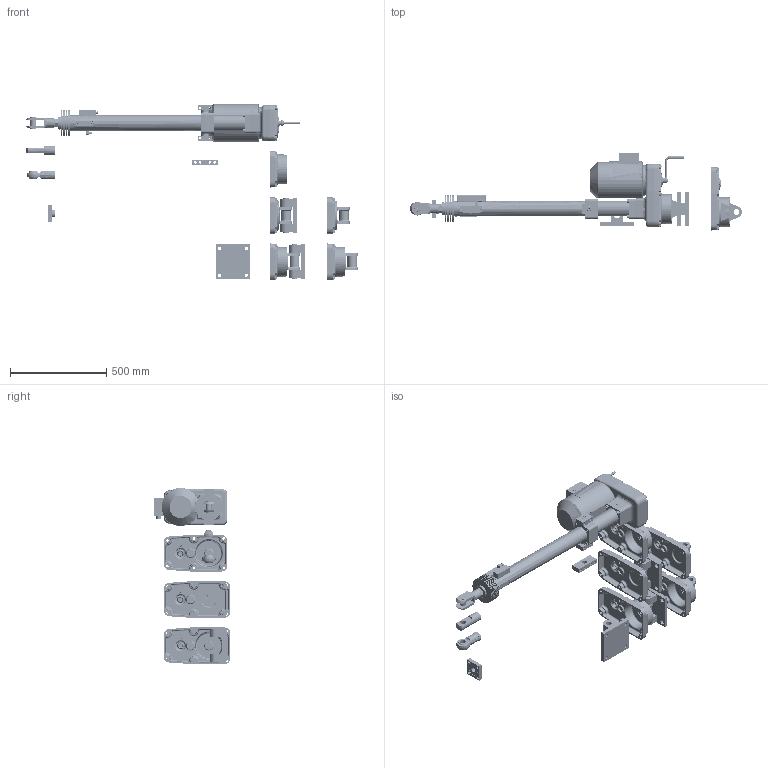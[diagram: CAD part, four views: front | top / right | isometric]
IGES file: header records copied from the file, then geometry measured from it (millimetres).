
Start section: SolidWorks IGES file using analytic representation for surfaces
Global section: file name: D:\ÂÍÓÊÎÂ ÂÑ\ÑÌ\Ñàéò\ÌÝÏ-Ñ3\Êîìïàñ 3D AutoCAD\Êîìïàñ 3D AutoCAD\ÌÝÏ Ñ3 700.IGS; native system: SolidWorks 2012; preprocessor: SolidWorks 2012; author: âíóêîâ; date: 141211.134012; units: millimetre
Bounding box: 1723 x 398.42 x 914 mm (x, y, z)
Surface area: 3285942.4 mm2 (no closed solid volume)
Topology: 0 solids, 0 shells, 4465 faces, 84810 edges, 84665 vertices
Faces by surface type: bspline 2290, revolution 2175
